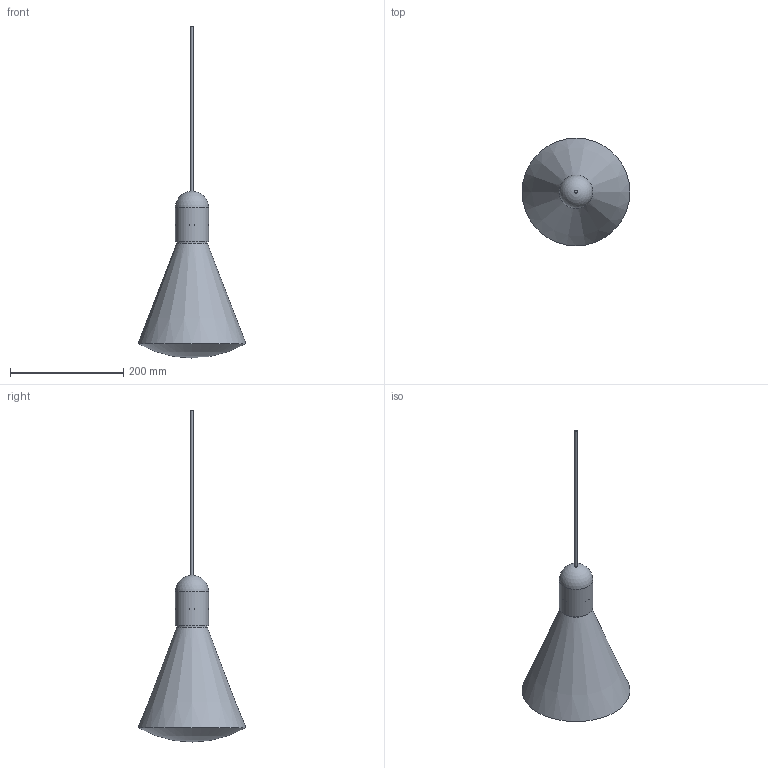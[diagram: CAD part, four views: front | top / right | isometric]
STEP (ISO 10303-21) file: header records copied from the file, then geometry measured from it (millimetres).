
FILE_DESCRIPTION(/* description */ ('','CAx-IF Rec.Pracs.---Representation and Presentation of Product Manufacturing Information (PMI)---4.0---2014-10-13'),/* implementation_level */ '2;1');
FILE_NAME(/* name */ 'Niche - Flask Petite - Placebo Pendant.step',/* time_stamp */ '2025-01-09T10:37:08-05:00',/* author */ (''),/* organization */ (''),/* preprocessor_version */ 'ST-DEVELOPER v20',/* originating_system */ 'Autodesk Translation Framework v13.20.0.188',/* authorisation */ '');
FILE_SCHEMA (('AP242_MANAGED_MODEL_BASED_3D_ENGINEERING_MIM_LF { 1 0 10303 442 1 1 4 }'));
Length unit declared in the file: inch
Products named in the file (4): Flask - Petite - Modular; Modular - Placebo - Bayonet Connector; Flask Petite Modular; Modular - Placedo - Cord Set
Assembly tree (3 placements, depth 2):
  Flask - Petite - Modular
    Modular - Placebo - Bayonet Connector
    Flask Petite Modular
    Modular - Placedo - Cord Set
Bounding box: 190.5 x 190.5 x 586.74 mm (x, y, z)
Volume: 268892.8 mm3; surface area: 258063.1 mm2
Topology: 5 solids, 5 shells, 100 faces, 269 edges, 178 vertices
Faces by surface type: plane 65, cylinder 25, torus 4, sphere 4, cone 2
Full cylindrical faces by diameter (mm): 4.572 x1, 5.715 x1, 37.592 x1, 42.926 x1, 46.482 x1, 50.038 x1, 53.848 x1, 56.032 x1, 59.08 x1
Entity records: 3381 total; most frequent: CARTESIAN_POINT 676, DIRECTION 553, ORIENTED_EDGE 534, EDGE_CURVE 267, AXIS2_PLACEMENT_3D 191, VERTEX_POINT 178, LINE 171, VECTOR 171
